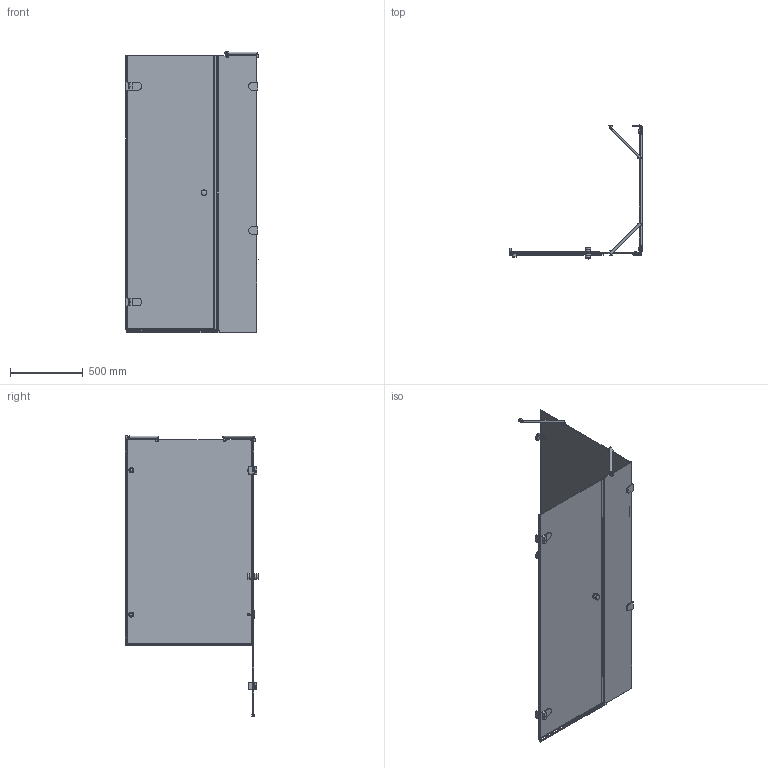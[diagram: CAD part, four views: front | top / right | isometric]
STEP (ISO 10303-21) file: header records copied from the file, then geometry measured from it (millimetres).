
FILE_DESCRIPTION(/* description */ (''),/* implementation_level */ '2;1');
FILE_NAME(/* name */ 'E:\Работа\Сергей\Душевые кабинки\! Работа\! 003AV_LUX\LUX SQUARE GK-003AV\LUX SQUARE GK-003AV левая модель\LUX SQUARE GK-003AV ЛЕВАЯ-3D.stp',/* time_stamp */ '2017-10-15T19:33:02+03:00',/* author */ ('PC'),/* organization */ (''),/* preprocessor_version */ 'ST-DEVELOPER v15.2',/* originating_system */ 'Autodesk Inventor 2014',/* authorisation */ '');
FILE_SCHEMA (('AUTOMOTIVE_DESIGN { 1 0 10303 214 3 1 1 }'));
Length unit declared in the file: millimetre
Products named in the file (1): LUX SQUARE GK-003AV ЛЕВАЯ-3D
Bounding box: 910.13 x 918 x 1931.49 mm (x, y, z)
Volume: 18536904.8 mm3; surface area: 6356451.2 mm2
Topology: 4 solids, 12 shells, 724 faces, 1908 edges, 1235 vertices
Faces by surface type: plane 476, cylinder 211, torus 12, sphere 11, bspline 8, cone 6
Full cylindrical faces by diameter (mm): 8 x4, 11 x4, 12 x3, 15 x2, 18 x4, 20 x4, 26 x1, 30 x2, 35 x2, 38 x4, 40 x2
Entity records: 23167 total; most frequent: CARTESIAN_POINT 4678, DIRECTION 3648, ORIENTED_EDGE 3644, EDGE_CURVE 1822, LINE 1286, VECTOR 1286, VERTEX_POINT 1203, AXIS2_PLACEMENT_3D 1181
